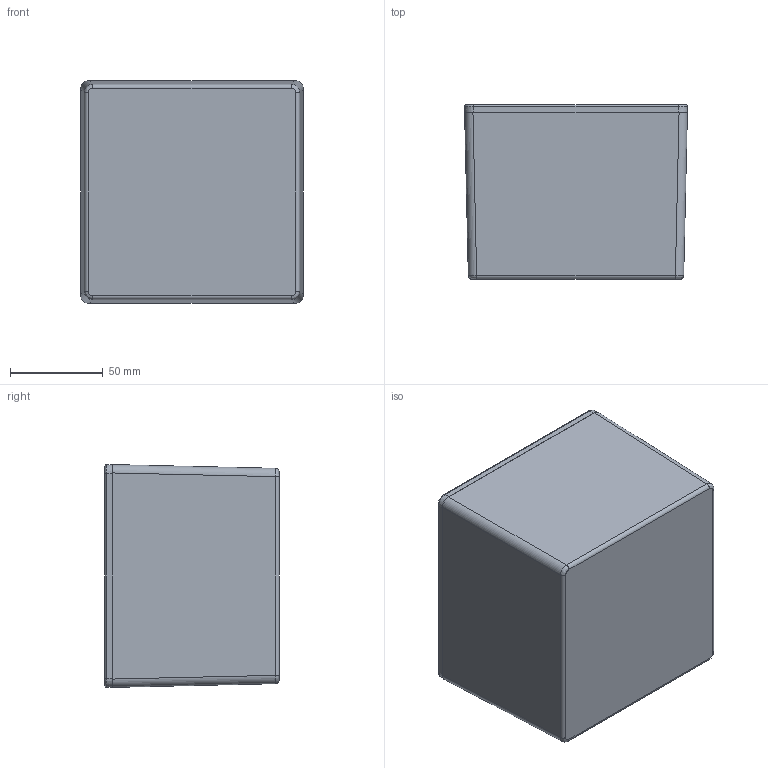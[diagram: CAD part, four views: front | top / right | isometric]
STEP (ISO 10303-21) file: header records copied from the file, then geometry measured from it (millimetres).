
FILE_DESCRIPTION(/* description */ (''),/* implementation_level */ '2;1');
FILE_NAME(/* name */ 'E:\Eng\Customer Service\Drawings\1590\STEP\1590V\1590V.iam.stp',/* time_stamp */ '2014-07-28T13:51:23-04:00',/* author */ ('L.walsh'),/* organization */ (''),/* preprocessor_version */ 'ST-DEVELOPER v15.2',/* originating_system */ 'Autodesk Inventor 2014',/* authorisation */ '');
FILE_SCHEMA (('AUTOMOTIVE_DESIGN { 1 0 10303 214 3 1 1 }'));
Products named in the file (4): 1590V Box; 1590Q-U-V Lid; #12651; 1590V
Bounding box: 120 x 93.8 x 120 mm (x, y, z)
Volume: 182813 mm3; surface area: 140731.6 mm2
Topology: 6 solids, 6 shells, 450 faces, 1162 edges, 756 vertices
Faces by surface type: plane 235, bspline 103, cylinder 60, cone 40, torus 12
Full cylindrical faces by diameter (mm): 2.642 x4, 3.378 x4, 3.9 x4, 4 x4
Entity records: 12648 total; most frequent: CARTESIAN_POINT 4061, ORIENTED_EDGE 1882, DIRECTION 1490, EDGE_CURVE 941, VERTEX_POINT 619, LINE 544, VECTOR 544, AXIS2_PLACEMENT_3D 473
